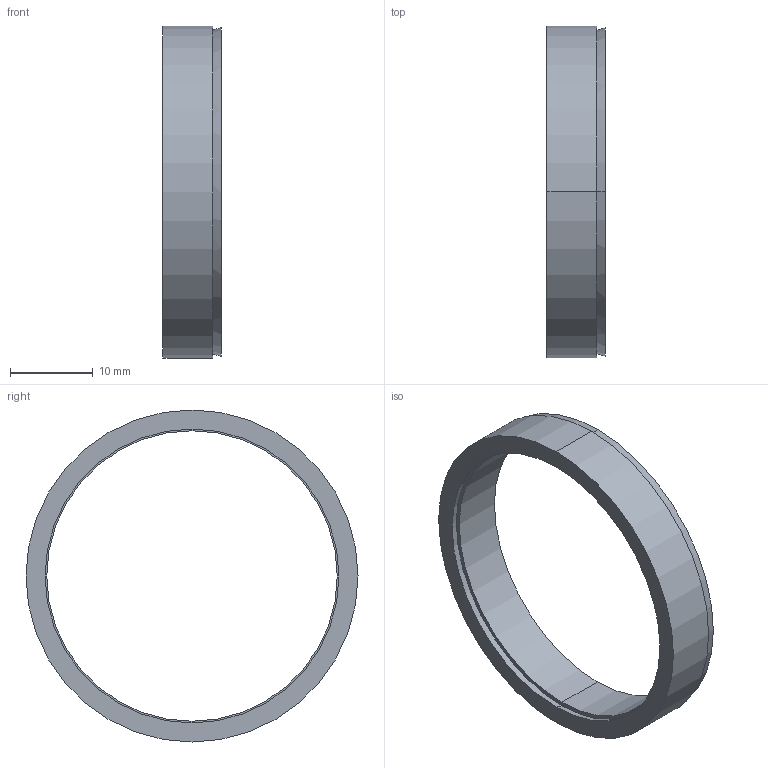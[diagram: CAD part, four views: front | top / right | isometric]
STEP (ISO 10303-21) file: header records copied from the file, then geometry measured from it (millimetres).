
FILE_DESCRIPTION (( 'STEP AP203' ), '1' );
FILE_NAME ('R-35-40.STEP', '2017-11-06T02:28:25', ( 'MYCOM' ), ( '' ), 'SwSTEP 2.0', 'SolidWorks 2015', '' );
FILE_SCHEMA (( 'CONFIG_CONTROL_DESIGN' ));
Length unit declared in the file: millimetre
Products named in the file (1): R-35-40
Bounding box: 7 x 40 x 40 mm (x, y, z)
Surface area: 3549.4 mm2 (no closed solid volume)
Topology: 0 solids, 2 shells, 12 faces, 24 edges, 16 vertices
Faces by surface type: cone 4, cylinder 4, plane 4
Entity records: 406 total; most frequent: DIRECTION 66, CARTESIAN_POINT 53, ORIENTED_EDGE 48, AXIS2_PLACEMENT_3D 29, EDGE_CURVE 24, EDGE_LOOP 16, CIRCLE 16, VERTEX_POINT 16
